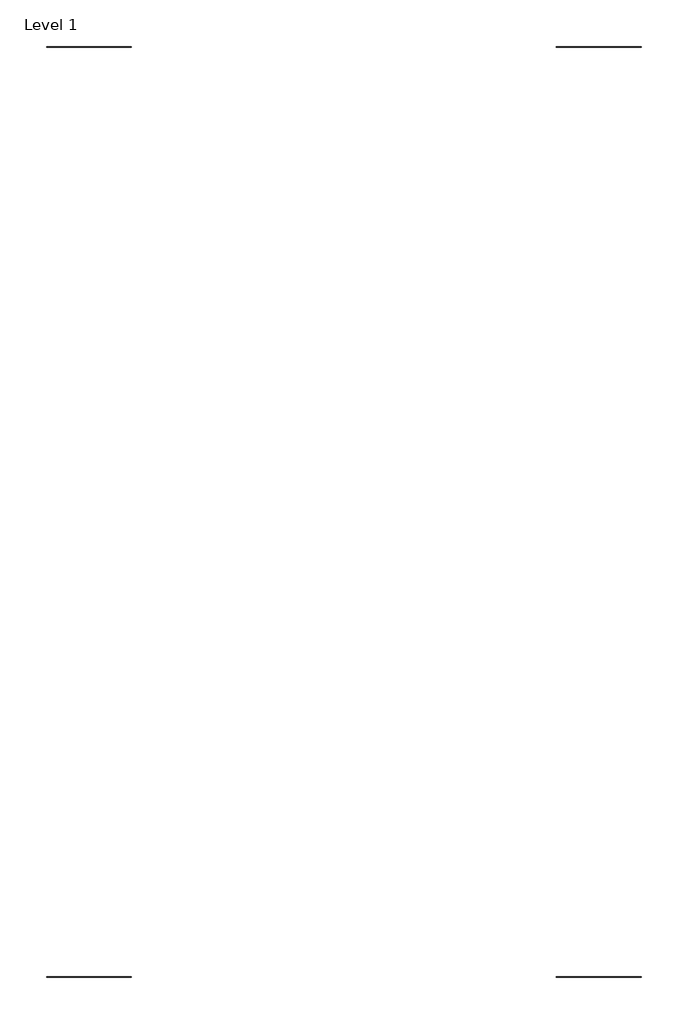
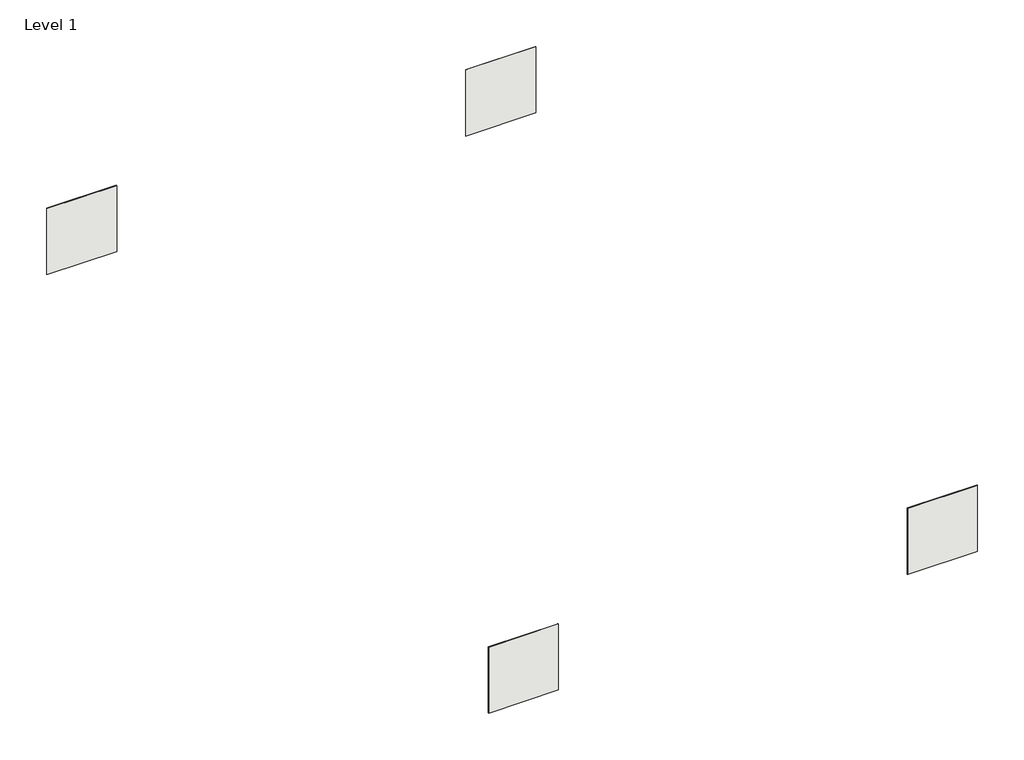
# One storey: 4 coverings.
"""IFC4 building model written with IfcOpenShell, lengths in millimetres."""

from ifc_helpers import new_model, si_unit, origin, origin_with_axes, place, context, project, spatial, polyline, outline, extrude, element, save

model = new_model("IFC4")

# Units and contexts
model_context = context("Model", 3, world=origin())
ifc_project = project(units=[si_unit("LENGTHUNIT", "METRE", prefix="MILLI")], contexts=[model_context])

# Site, building, storey
site = spatial("IfcSite", under=ifc_project)
building = spatial("IfcBuilding", under=site)
storey = spatial("IfcBuildingStorey", under=building, Name="Level 1", Elevation=0.0)

# Coverings
placement = place(None, origin())
element("IfcCovering", 1, ObjectType="LOVE TILES-SENSE-AMAZON DECORATION-35x100-MATT RECTIFIED-BEIGE", at=placement, inside=storey, context=model_context, shape_type="SweptSolid", body=[
    extrude(outline(polyline([(28997.0720096, -26211.4513387), (27997.0720096, -26211.4513387), (27997.0720096, -26203.6513387), (28997.0720096, -26203.6513387), (28997.0720096, -26211.4513387)])), origin_with_axes(), (0.0, 0.0, 1.0), 1000.0),
])
element("IfcCovering", 2, ObjectType="LOVE TILES-SENSE-AMAZON DECORATION-35x100-MATT RECTIFIED-GREY", at=placement, inside=storey, context=model_context, shape_type="SweptSolid", body=[
    extrude(outline(polyline([(34997.0720096, -26211.4513387), (33997.0720096, -26211.4513387), (33997.0720096, -26203.6513387), (34997.0720096, -26203.6513387), (34997.0720096, -26211.4513387)])), origin_with_axes(), (0.0, 0.0, 1.0), 1000.0),
])
element("IfcCovering", 3, ObjectType="LOVE TILES-SENSE-AMAZON DECORATION-35x100-MATT RECTIFIED-LIGHT GREY", at=placement, inside=storey, context=model_context, shape_type="SweptSolid", body=[
    extrude(outline(polyline([(28997.0720096, -37163.0437558), (27997.0720096, -37163.0437558), (27997.0720096, -37155.2437558), (28997.0720096, -37155.2437558), (28997.0720096, -37163.0437558)])), origin_with_axes(), (0.0, 0.0, 1.0), 1000.0),
])
element("IfcCovering", 4, ObjectType="LOVE TILES-SENSE-AMAZON DECORATION-35x100-MATT RECTIFIED-WHITE", at=placement, inside=storey, context=model_context, shape_type="SweptSolid", body=[
    extrude(outline(polyline([(34997.0720096, -37163.0437558), (33997.0720096, -37163.0437558), (33997.0720096, -37155.2437558), (34997.0720096, -37155.2437558), (34997.0720096, -37163.0437558)])), origin_with_axes(), (0.0, 0.0, 1.0), 1000.0),
])

save(model, "model.ifc")
